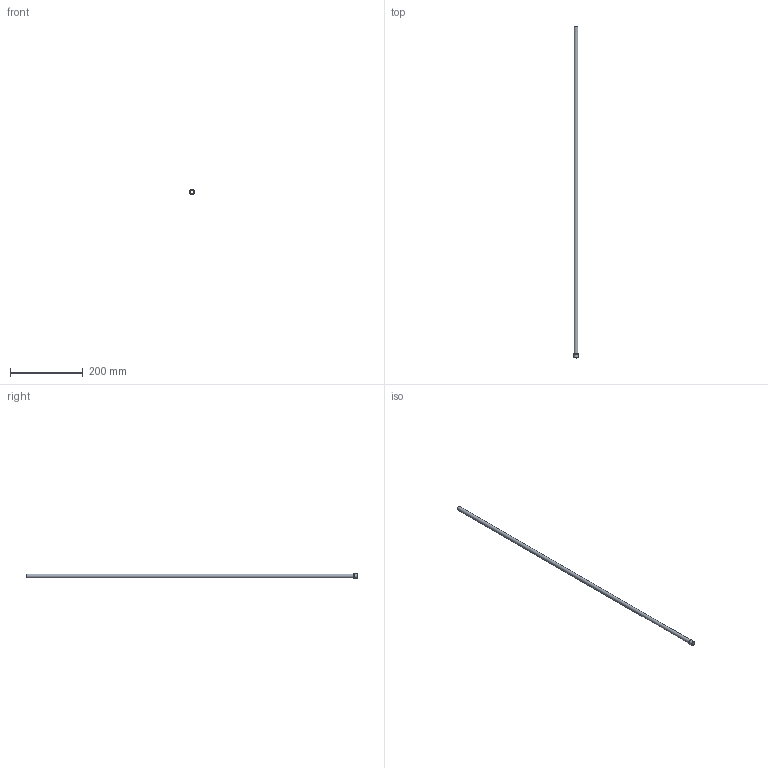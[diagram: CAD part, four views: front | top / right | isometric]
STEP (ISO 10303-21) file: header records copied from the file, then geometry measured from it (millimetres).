
FILE_DESCRIPTION(/* description */ (''),/* implementation_level */ '2;1');
FILE_NAME(/* name */ 'C:/Users/drich/Desktop/HF437T-36 v1.step',/* time_stamp */ '2019-12-30T13:34:41-06:00',/* author */ (''),/* organization */ (''),/* preprocessor_version */ 'ST-DEVELOPER v18',/* originating_system */ 'Autodesk Translation Framework v8.12.0.6',/* authorisation */ '');
FILE_SCHEMA (('AUTOMOTIVE_DESIGN { 1 0 10303 214 3 1 1 }'));
Length unit declared in the file: inch
Products named in the file (1): HF437T-36
Bounding box: 12.75 x 914.4 x 12.75 mm (x, y, z)
Volume: 11860.5 mm3; surface area: 60272.6 mm2
Topology: 1 solids, 1 shells, 12 faces, 30 edges, 22 vertices
Faces by surface type: plane 4, cylinder 4, torus 3, cone 1
Full cylindrical faces by diameter (mm): 10.084 x1, 10.846 x1, 12.565 x1, 12.751 x1
Entity records: 426 total; most frequent: DIRECTION 81, CARTESIAN_POINT 65, ORIENTED_EDGE 60, AXIS2_PLACEMENT_3D 38, EDGE_CURVE 30, CIRCLE 25, VERTEX_POINT 22, EDGE_LOOP 16
